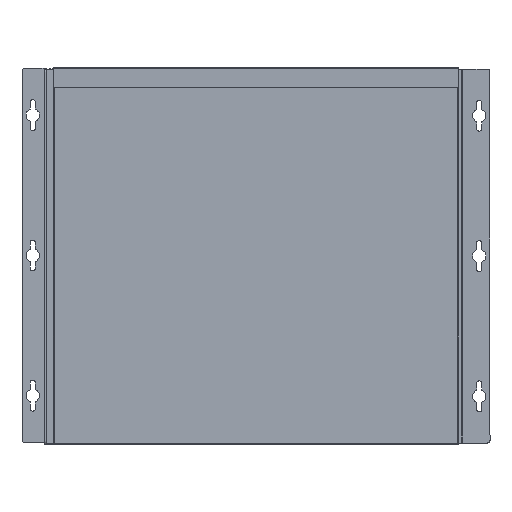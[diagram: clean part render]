
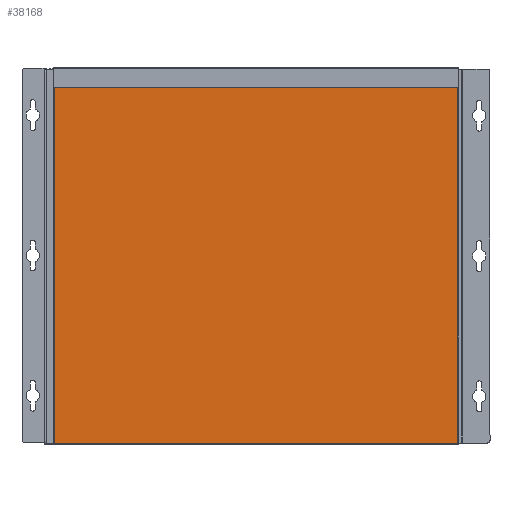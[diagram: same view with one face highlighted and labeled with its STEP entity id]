
A CAD part, top view. The second image highlights one B-rep face of the part: STEP entity #38168.
In plain terms, the highlighted planar face has unit normal (0, 0, 1).
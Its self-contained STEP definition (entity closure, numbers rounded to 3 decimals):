
#1099 = VECTOR ( 'NONE', #31479, 1000. ) ;
#1883 = EDGE_CURVE ( 'NONE', #41451, #41065, #19127, .T. ) ;
#4035 = CARTESIAN_POINT ( 'NONE',  ( 151.5, -140.4, 130. ) ) ;
#5156 = ORIENTED_EDGE ( 'NONE', *, *, #27025, .T. ) ;
#7007 = LINE ( 'NONE', #4035, #26629 ) ;
#7112 = EDGE_CURVE ( 'NONE', #41451, #38125, #15215, .T. ) ;
#7135 = CARTESIAN_POINT ( 'NONE',  ( 151.05, 125.85, 130. ) ) ;
#7601 = DIRECTION ( 'NONE',  ( 1., 0., 0. ) ) ;
#8772 = EDGE_CURVE ( 'NONE', #14130, #41065, #27766, .T. ) ;
#10790 = ORIENTED_EDGE ( 'NONE', *, *, #8772, .T. ) ;
#11229 = DIRECTION ( 'NONE',  ( 1., 0., 0. ) ) ;
#11340 = DIRECTION ( 'NONE',  ( 1., 0., 0. ) ) ;
#11655 = VECTOR ( 'NONE', #22886, 1000. ) ;
#14130 = VERTEX_POINT ( 'NONE', #29229 ) ;
#15215 = LINE ( 'NONE', #36097, #1099 ) ;
#19127 = LINE ( 'NONE', #23188, #24195 ) ;
#19567 = CARTESIAN_POINT ( 'NONE',  ( -151.05, -140.4, 130. ) ) ;
#20092 = DIRECTION ( 'NONE',  ( 0., 0., 1. ) ) ;
#22886 = DIRECTION ( 'NONE',  ( 0., 1., 0. ) ) ;
#23188 = CARTESIAN_POINT ( 'NONE',  ( -151.5, 125.85, 130. ) ) ;
#24195 = VECTOR ( 'NONE', #11229, 1000. ) ;
#26476 = ORIENTED_EDGE ( 'NONE', *, *, #7112, .T. ) ;
#26629 = VECTOR ( 'NONE', #11340, 1000. ) ;
#27025 = EDGE_CURVE ( 'NONE', #38125, #14130, #7007, .T. ) ;
#27766 = LINE ( 'NONE', #7135, #11655 ) ;
#29229 = CARTESIAN_POINT ( 'NONE',  ( 151.05, -140.4, 130. ) ) ;
#30645 = CARTESIAN_POINT ( 'NONE',  ( -151.05, 125.85, 130. ) ) ;
#31479 = DIRECTION ( 'NONE',  ( 0., -1., 0. ) ) ;
#36097 = CARTESIAN_POINT ( 'NONE',  ( -151.05, -140.85, 130. ) ) ;
#38125 = VERTEX_POINT ( 'NONE', #19567 ) ;
#38168 = ADVANCED_FACE ( 'NONE', ( #52640 ), #52902, .T. ) ;
#39924 = CARTESIAN_POINT ( 'NONE',  ( 151.05, 125.85, 130. ) ) ;
#40161 = CARTESIAN_POINT ( 'NONE',  ( 0., 0., 130. ) ) ;
#41065 = VERTEX_POINT ( 'NONE', #39924 ) ;
#41451 = VERTEX_POINT ( 'NONE', #30645 ) ;
#46355 = AXIS2_PLACEMENT_3D ( 'NONE', #40161, #20092, #7601 ) ;
#50280 = ORIENTED_EDGE ( 'NONE', *, *, #1883, .F. ) ;
#50618 = EDGE_LOOP ( 'NONE', ( #5156, #10790, #50280, #26476 ) ) ;
#52640 = FACE_OUTER_BOUND ( 'NONE', #50618, .T. ) ;
#52902 = PLANE ( 'NONE',  #46355 ) ;
